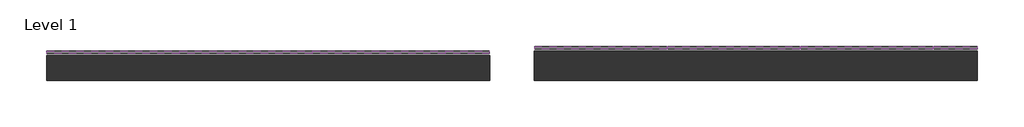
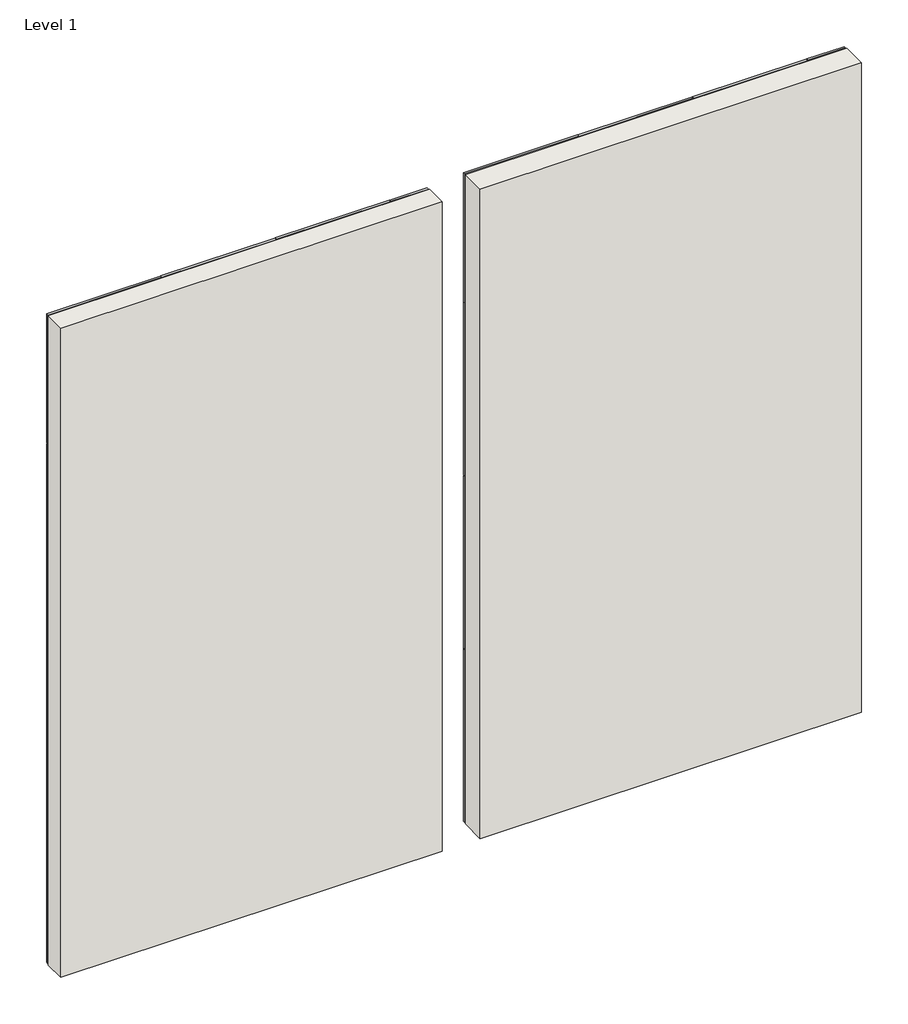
# One storey, incomplete: 32 plates, 2 walls.
"""IFC4 building model written with IfcOpenShell, lengths in millimetres."""

from ifc_helpers import new_model, si_unit, origin, origin_with_axes, place, context, project, spatial, polyline, outline, extrude, transform, mapped, element, save
from components import kws_generic_panel_kws_generic_panel_d79843ba, kws_generic_panel_kws_generic_panel_253ea42e, kws_generic_panel_kws_generic_panel_c40079bc, kws_generic_panel_kws_generic_panel_fbc156a4

model = new_model("IFC4")

# Units and contexts
model_context = context("Model", 3, world=origin())
ifc_project = project(units=[si_unit("LENGTHUNIT", "METRE", prefix="MILLI")], contexts=[model_context])

# Site, building, storey
site = spatial("IfcSite", under=ifc_project)
building = spatial("IfcBuilding", under=site)
storey = spatial("IfcBuildingStorey", under=building, Name="Level 1", Elevation=0.0)

# Plates
placement = place(None, origin())
kws_generic_panel_kws_generic_panel_shape = kws_generic_panel_kws_generic_panel_d79843ba(model_context)
element("IfcPlate", 1, ObjectType="KWS_Generic-Panel : KWS_Generic-Panel", at=placement, inside=storey, context=model_context, shape_type="MappedRepresentation", body=[
    mapped(kws_generic_panel_kws_generic_panel_shape, transform((2093.9764741, 7354.7086092, 0.0), x_axis=(1.0, 0.0, 0.0), y_axis=(0.0, 1.0, 0.0), z_axis=(0.0, 0.0, 1.0))),
])
element("IfcPlate", 2, ObjectType="KWS_Generic-Panel : KWS_Generic-Panel", at=placement, inside=storey, context=model_context, shape_type="MappedRepresentation", body=[
    mapped(kws_generic_panel_kws_generic_panel_shape, transform((3617.9764743, 7354.7086092, 0.0), x_axis=(1.0, 0.0, 0.0), y_axis=(0.0, 1.0, 0.0), z_axis=(0.0, 0.0, 1.0))),
])
element("IfcPlate", 3, ObjectType="KWS_Generic-Panel : KWS_Generic-Panel", at=placement, inside=storey, context=model_context, shape_type="MappedRepresentation", body=[
    mapped(kws_generic_panel_kws_generic_panel_shape, transform((5141.9764743, 7354.7086092, 0.0), x_axis=(1.0, 0.0, 0.0), y_axis=(0.0, 1.0, 0.0), z_axis=(0.0, 0.0, 1.0))),
])
element("IfcPlate", 4, ObjectType="KWS_Generic-Panel : KWS_Generic-Panel", at=placement, inside=storey, context=model_context, shape_type="MappedRepresentation", body=[
    mapped(kws_generic_panel_kws_generic_panel_shape, transform((2093.9764741, 7354.7086092, 2438.4), x_axis=(1.0, 0.0, 0.0), y_axis=(0.0, 1.0, 0.0), z_axis=(0.0, 0.0, 1.0))),
])
element("IfcPlate", 5, ObjectType="KWS_Generic-Panel : KWS_Generic-Panel", at=placement, inside=storey, context=model_context, shape_type="MappedRepresentation", body=[
    mapped(kws_generic_panel_kws_generic_panel_shape, transform((3617.9764743, 7354.7086092, 2438.4), x_axis=(1.0, 0.0, 0.0), y_axis=(0.0, 1.0, 0.0), z_axis=(0.0, 0.0, 1.0))),
])
element("IfcPlate", 6, ObjectType="KWS_Generic-Panel : KWS_Generic-Panel", at=placement, inside=storey, context=model_context, shape_type="MappedRepresentation", body=[
    mapped(kws_generic_panel_kws_generic_panel_shape, transform((5141.9764743, 7354.7086092, 2438.4), x_axis=(1.0, 0.0, 0.0), y_axis=(0.0, 1.0, 0.0), z_axis=(0.0, 0.0, 1.0))),
])
element("IfcPlate", 7, ObjectType="KWS_Generic-Panel : KWS_Generic-Panel", at=placement, inside=storey, context=model_context, shape_type="MappedRepresentation", body=[
    mapped(kws_generic_panel_kws_generic_panel_shape, transform((2093.9764741, 7354.7086092, 4876.8), x_axis=(1.0, 0.0, 0.0), y_axis=(0.0, 1.0, 0.0), z_axis=(0.0, 0.0, 1.0))),
])
element("IfcPlate", 8, ObjectType="KWS_Generic-Panel : KWS_Generic-Panel", at=placement, inside=storey, context=model_context, shape_type="MappedRepresentation", body=[
    mapped(kws_generic_panel_kws_generic_panel_shape, transform((3617.9764743, 7354.7086092, 4876.8), x_axis=(1.0, 0.0, 0.0), y_axis=(0.0, 1.0, 0.0), z_axis=(0.0, 0.0, 1.0))),
])
element("IfcPlate", 9, ObjectType="KWS_Generic-Panel : KWS_Generic-Panel", at=placement, inside=storey, context=model_context, shape_type="MappedRepresentation", body=[
    mapped(kws_generic_panel_kws_generic_panel_shape, transform((5141.9764743, 7354.7086092, 4876.8), x_axis=(1.0, 0.0, 0.0), y_axis=(0.0, 1.0, 0.0), z_axis=(0.0, 0.0, 1.0))),
])
element("IfcPlate", 10, ObjectType="KWS_Generic-Panel : KWS_Generic-Panel", at=placement, inside=storey, context=model_context, shape_type="MappedRepresentation", body=[
    mapped(kws_generic_panel_kws_generic_panel_shape, transform((7681.9764741, 7405.5086092, 0.0), x_axis=(1.0, 0.0, 0.0), y_axis=(0.0, 1.0, 0.0), z_axis=(0.0, 0.0, 1.0))),
])
element("IfcPlate", 11, ObjectType="KWS_Generic-Panel : KWS_Generic-Panel", at=placement, inside=storey, context=model_context, shape_type="MappedRepresentation", body=[
    mapped(kws_generic_panel_kws_generic_panel_shape, transform((9205.9764743, 7405.5086092, 0.0), x_axis=(1.0, 0.0, 0.0), y_axis=(0.0, 1.0, 0.0), z_axis=(0.0, 0.0, 1.0))),
])
element("IfcPlate", 12, ObjectType="KWS_Generic-Panel : KWS_Generic-Panel", at=placement, inside=storey, context=model_context, shape_type="MappedRepresentation", body=[
    mapped(kws_generic_panel_kws_generic_panel_shape, transform((10729.9764743, 7405.5086092, 0.0), x_axis=(1.0, 0.0, 0.0), y_axis=(0.0, 1.0, 0.0), z_axis=(0.0, 0.0, 1.0))),
])
element("IfcPlate", 13, ObjectType="KWS_Generic-Panel : KWS_Generic-Panel", at=placement, inside=storey, context=model_context, shape_type="MappedRepresentation", body=[
    mapped(kws_generic_panel_kws_generic_panel_shape, transform((7681.9764741, 7405.5086092, 2438.4), x_axis=(1.0, 0.0, 0.0), y_axis=(0.0, 1.0, 0.0), z_axis=(0.0, 0.0, 1.0))),
])
element("IfcPlate", 14, ObjectType="KWS_Generic-Panel : KWS_Generic-Panel", at=placement, inside=storey, context=model_context, shape_type="MappedRepresentation", body=[
    mapped(kws_generic_panel_kws_generic_panel_shape, transform((9205.9764743, 7405.5086092, 2438.4), x_axis=(1.0, 0.0, 0.0), y_axis=(0.0, 1.0, 0.0), z_axis=(0.0, 0.0, 1.0))),
])
element("IfcPlate", 15, ObjectType="KWS_Generic-Panel : KWS_Generic-Panel", at=placement, inside=storey, context=model_context, shape_type="MappedRepresentation", body=[
    mapped(kws_generic_panel_kws_generic_panel_shape, transform((10729.9764743, 7405.5086092, 2438.4), x_axis=(1.0, 0.0, 0.0), y_axis=(0.0, 1.0, 0.0), z_axis=(0.0, 0.0, 1.0))),
])
element("IfcPlate", 16, ObjectType="KWS_Generic-Panel : KWS_Generic-Panel", at=placement, inside=storey, context=model_context, shape_type="MappedRepresentation", body=[
    mapped(kws_generic_panel_kws_generic_panel_shape, transform((7681.9764741, 7405.5086092, 4876.8), x_axis=(1.0, 0.0, 0.0), y_axis=(0.0, 1.0, 0.0), z_axis=(0.0, 0.0, 1.0))),
])
element("IfcPlate", 17, ObjectType="KWS_Generic-Panel : KWS_Generic-Panel", at=placement, inside=storey, context=model_context, shape_type="MappedRepresentation", body=[
    mapped(kws_generic_panel_kws_generic_panel_shape, transform((9205.9764743, 7405.5086092, 4876.8), x_axis=(1.0, 0.0, 0.0), y_axis=(0.0, 1.0, 0.0), z_axis=(0.0, 0.0, 1.0))),
])
element("IfcPlate", 18, ObjectType="KWS_Generic-Panel : KWS_Generic-Panel", at=placement, inside=storey, context=model_context, shape_type="MappedRepresentation", body=[
    mapped(kws_generic_panel_kws_generic_panel_shape, transform((10729.9764743, 7405.5086092, 4876.8), x_axis=(1.0, 0.0, 0.0), y_axis=(0.0, 1.0, 0.0), z_axis=(0.0, 0.0, 1.0))),
])
kws_generic_panel_kws_generic_panel_2_shape = kws_generic_panel_kws_generic_panel_253ea42e(model_context)
element("IfcPlate", 19, ObjectType="KWS_Generic-Panel : KWS_Generic-Panel", at=placement, inside=storey, context=model_context, shape_type="MappedRepresentation", body=[
    mapped(kws_generic_panel_kws_generic_panel_2_shape, transform((6157.9764741, 7354.7086092, 0.0), x_axis=(1.0, 0.0, 0.0), y_axis=(0.0, 1.0, 0.0), z_axis=(0.0, 0.0, 1.0))),
])
element("IfcPlate", 20, ObjectType="KWS_Generic-Panel : KWS_Generic-Panel", at=placement, inside=storey, context=model_context, shape_type="MappedRepresentation", body=[
    mapped(kws_generic_panel_kws_generic_panel_2_shape, transform((6157.9764741, 7354.7086092, 2438.4), x_axis=(1.0, 0.0, 0.0), y_axis=(0.0, 1.0, 0.0), z_axis=(0.0, 0.0, 1.0))),
])
element("IfcPlate", 21, ObjectType="KWS_Generic-Panel : KWS_Generic-Panel", at=placement, inside=storey, context=model_context, shape_type="MappedRepresentation", body=[
    mapped(kws_generic_panel_kws_generic_panel_2_shape, transform((6157.9764741, 7354.7086092, 4876.8), x_axis=(1.0, 0.0, 0.0), y_axis=(0.0, 1.0, 0.0), z_axis=(0.0, 0.0, 1.0))),
])
element("IfcPlate", 22, ObjectType="KWS_Generic-Panel : KWS_Generic-Panel", at=placement, inside=storey, context=model_context, shape_type="MappedRepresentation", body=[
    mapped(kws_generic_panel_kws_generic_panel_2_shape, transform((11745.9764741, 7405.5086092, 0.0), x_axis=(1.0, 0.0, 0.0), y_axis=(0.0, 1.0, 0.0), z_axis=(0.0, 0.0, 1.0))),
])
element("IfcPlate", 23, ObjectType="KWS_Generic-Panel : KWS_Generic-Panel", at=placement, inside=storey, context=model_context, shape_type="MappedRepresentation", body=[
    mapped(kws_generic_panel_kws_generic_panel_2_shape, transform((11745.9764741, 7405.5086092, 2438.4), x_axis=(1.0, 0.0, 0.0), y_axis=(0.0, 1.0, 0.0), z_axis=(0.0, 0.0, 1.0))),
])
element("IfcPlate", 24, ObjectType="KWS_Generic-Panel : KWS_Generic-Panel", at=placement, inside=storey, context=model_context, shape_type="MappedRepresentation", body=[
    mapped(kws_generic_panel_kws_generic_panel_2_shape, transform((11745.9764741, 7405.5086092, 4876.8), x_axis=(1.0, 0.0, 0.0), y_axis=(0.0, 1.0, 0.0), z_axis=(0.0, 0.0, 1.0))),
])
kws_generic_panel_kws_generic_panel_3_shape = kws_generic_panel_kws_generic_panel_c40079bc(model_context)
element("IfcPlate", 25, ObjectType="KWS_Generic-Panel : KWS_Generic-Panel", at=placement, inside=storey, context=model_context, shape_type="MappedRepresentation", body=[
    mapped(kws_generic_panel_kws_generic_panel_3_shape, transform((2093.9764741, 7354.7086092, 7315.2), x_axis=(1.0, 0.0, 0.0), y_axis=(0.0, 1.0, 0.0), z_axis=(0.0, 0.0, 1.0))),
])
element("IfcPlate", 26, ObjectType="KWS_Generic-Panel : KWS_Generic-Panel", at=placement, inside=storey, context=model_context, shape_type="MappedRepresentation", body=[
    mapped(kws_generic_panel_kws_generic_panel_3_shape, transform((3617.9764743, 7354.7086092, 7315.2), x_axis=(1.0, 0.0, 0.0), y_axis=(0.0, 1.0, 0.0), z_axis=(0.0, 0.0, 1.0))),
])
element("IfcPlate", 27, ObjectType="KWS_Generic-Panel : KWS_Generic-Panel", at=placement, inside=storey, context=model_context, shape_type="MappedRepresentation", body=[
    mapped(kws_generic_panel_kws_generic_panel_3_shape, transform((5141.9764743, 7354.7086092, 7315.2), x_axis=(1.0, 0.0, 0.0), y_axis=(0.0, 1.0, 0.0), z_axis=(0.0, 0.0, 1.0))),
])
element("IfcPlate", 28, ObjectType="KWS_Generic-Panel : KWS_Generic-Panel", at=placement, inside=storey, context=model_context, shape_type="MappedRepresentation", body=[
    mapped(kws_generic_panel_kws_generic_panel_3_shape, transform((7681.9764741, 7405.5086092, 7315.2), x_axis=(1.0, 0.0, 0.0), y_axis=(0.0, 1.0, 0.0), z_axis=(0.0, 0.0, 1.0))),
])
element("IfcPlate", 29, ObjectType="KWS_Generic-Panel : KWS_Generic-Panel", at=placement, inside=storey, context=model_context, shape_type="MappedRepresentation", body=[
    mapped(kws_generic_panel_kws_generic_panel_3_shape, transform((9205.9764743, 7405.5086092, 7315.2), x_axis=(1.0, 0.0, 0.0), y_axis=(0.0, 1.0, 0.0), z_axis=(0.0, 0.0, 1.0))),
])
element("IfcPlate", 30, ObjectType="KWS_Generic-Panel : KWS_Generic-Panel", at=placement, inside=storey, context=model_context, shape_type="MappedRepresentation", body=[
    mapped(kws_generic_panel_kws_generic_panel_3_shape, transform((10729.9764743, 7405.5086092, 7315.2), x_axis=(1.0, 0.0, 0.0), y_axis=(0.0, 1.0, 0.0), z_axis=(0.0, 0.0, 1.0))),
])
kws_generic_panel_kws_generic_panel_4_shape = kws_generic_panel_kws_generic_panel_fbc156a4(model_context)
element("IfcPlate", 31, ObjectType="KWS_Generic-Panel : KWS_Generic-Panel", at=placement, inside=storey, context=model_context, shape_type="MappedRepresentation", body=[
    mapped(kws_generic_panel_kws_generic_panel_4_shape, transform((6157.9764741, 7354.7086092, 7315.2), x_axis=(1.0, 0.0, 0.0), y_axis=(0.0, 1.0, 0.0), z_axis=(0.0, 0.0, 1.0))),
])
element("IfcPlate", 32, ObjectType="KWS_Generic-Panel : KWS_Generic-Panel", at=placement, inside=storey, context=model_context, shape_type="MappedRepresentation", body=[
    mapped(kws_generic_panel_kws_generic_panel_4_shape, transform((11745.9764741, 7405.5086092, 7315.2), x_axis=(1.0, 0.0, 0.0), y_axis=(0.0, 1.0, 0.0), z_axis=(0.0, 0.0, 1.0))),
])

# Walls
element("IfcWall", 33, ObjectType="Exterior - Backup Wall System - Concrete Block", at=placement, inside=storey, context=model_context, shape_type="SweptSolid", body=[
    extrude(outline(polyline([(6411.976474, 7046.7336092), (1331.976474, 7046.7336092), (1331.976474, 7335.6586092), (6411.976474, 7335.6586092), (6411.976474, 7046.7336092)])), origin_with_axes(), (0.0, 0.0, 1.0), 9144.0),
])
element("IfcWall", 34, ObjectType="Exterior - Backup Wall System - Concrete Block 2", at=placement, inside=storey, context=model_context, shape_type="SweptSolid", body=[
    extrude(outline(polyline([(11999.976474, 7046.7336092), (6919.976474, 7046.7336092), (6919.976474, 7386.4586092), (11999.976474, 7386.4586092), (11999.976474, 7046.7336092)])), origin_with_axes(), (0.0, 0.0, 1.0), 9144.0),
])

save(model, "model.ifc")
